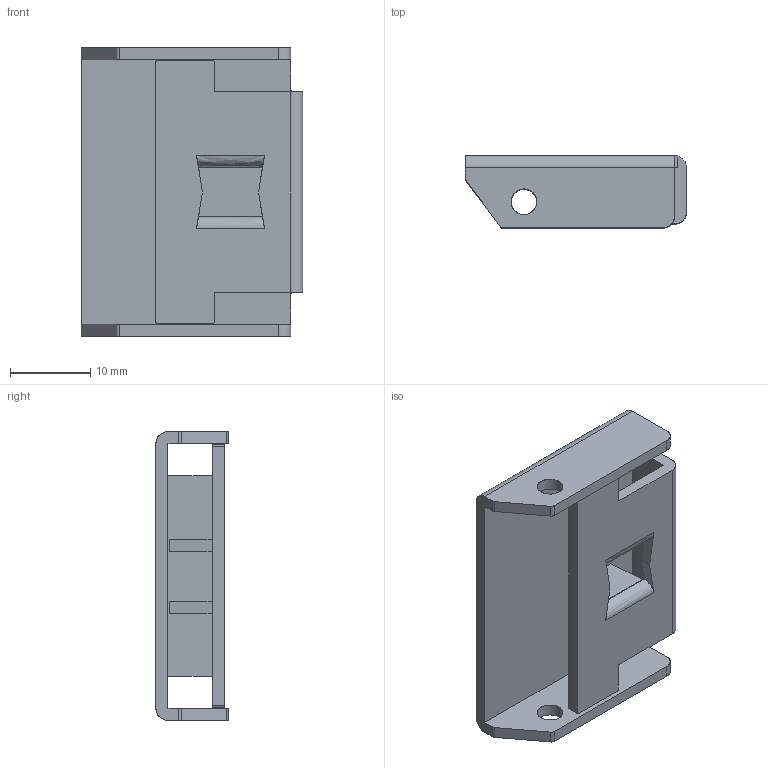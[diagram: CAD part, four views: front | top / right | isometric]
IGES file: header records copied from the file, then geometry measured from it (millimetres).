
Start section: SolidWorks IGES FILE using analytic representation for surfaces
Global section: file name: C:\Documents and Settings\lecoutey\Bureau\GP 2013\1086.060.10.IGS; native system: SolidWorks 2004 by SolidWorks Corporation; preprocessor: Version 5.3; author: lecoutey; date: 050329.162040; units: millimetre
Bounding box: 27.6 x 9 x 36 mm (x, y, z)
Surface area: 4357.1 mm2 (no closed solid volume)
Topology: 0 solids, 0 shells, 62 faces, 652 edges, 652 vertices
Faces by surface type: bspline 38, revolution 24
